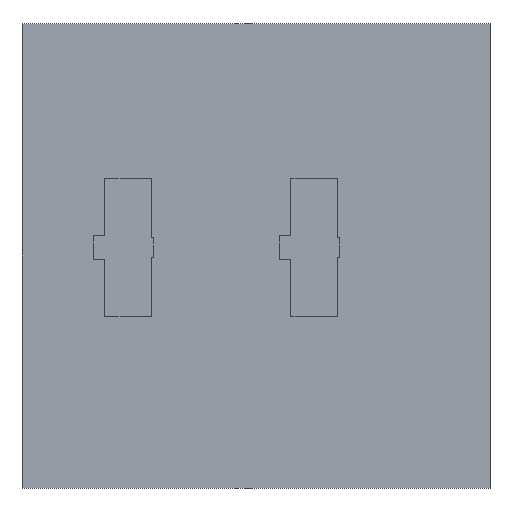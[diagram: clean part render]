
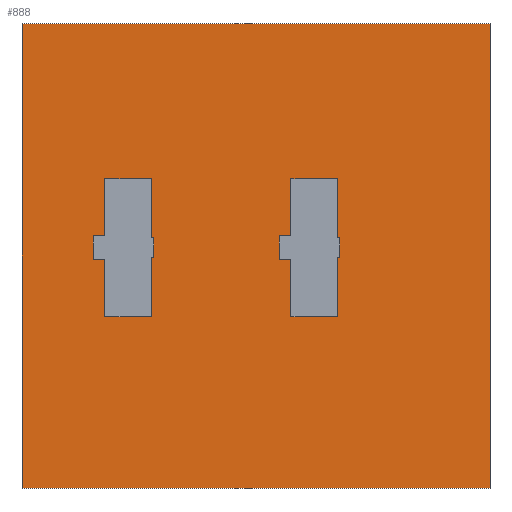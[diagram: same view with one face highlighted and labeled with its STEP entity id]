
A CAD part, front view. The second image highlights one B-rep face of the part: STEP entity #888.
In plain terms, the highlighted planar face has unit normal (0, -1, 0).
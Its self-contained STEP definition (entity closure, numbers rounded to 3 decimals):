
#30=FACE_BOUND('',#129,.T.);
#31=FACE_BOUND('',#130,.T.);
#70=FACE_OUTER_BOUND('',#128,.T.);
#128=EDGE_LOOP('',(#743,#744,#745,#746));
#129=EDGE_LOOP('',(#747,#748,#749,#750,#751,#752,#753,#754,#755,#756,#757,
#758));
#130=EDGE_LOOP('',(#759,#760,#761,#762,#763,#764,#765,#766,#767,#768,#769,
#770));
#145=LINE('',#1234,#249);
#147=LINE('',#1243,#251);
#151=LINE('',#1251,#255);
#154=LINE('',#1257,#258);
#157=LINE('',#1263,#261);
#160=LINE('',#1269,#264);
#163=LINE('',#1275,#267);
#166=LINE('',#1281,#270);
#169=LINE('',#1287,#273);
#172=LINE('',#1293,#276);
#175=LINE('',#1299,#279);
#178=LINE('',#1305,#282);
#181=LINE('',#1310,#285);
#183=LINE('',#1316,#287);
#187=LINE('',#1324,#291);
#190=LINE('',#1330,#294);
#193=LINE('',#1336,#297);
#196=LINE('',#1342,#300);
#199=LINE('',#1348,#303);
#202=LINE('',#1354,#306);
#205=LINE('',#1360,#309);
#208=LINE('',#1366,#312);
#211=LINE('',#1372,#315);
#214=LINE('',#1378,#318);
#217=LINE('',#1383,#321);
#221=LINE('',#1397,#325);
#239=LINE('',#1446,#343);
#240=LINE('',#1447,#344);
#249=VECTOR('',#992,120.);
#251=VECTOR('',#1000,10.);
#255=VECTOR('',#1006,10.);
#258=VECTOR('',#1011,10.);
#261=VECTOR('',#1016,10.);
#264=VECTOR('',#1021,10.);
#267=VECTOR('',#1026,10.);
#270=VECTOR('',#1031,10.);
#273=VECTOR('',#1036,10.);
#276=VECTOR('',#1041,10.);
#279=VECTOR('',#1046,10.);
#282=VECTOR('',#1051,10.);
#285=VECTOR('',#1056,10.);
#287=VECTOR('',#1062,10.);
#291=VECTOR('',#1068,10.);
#294=VECTOR('',#1073,10.);
#297=VECTOR('',#1078,10.);
#300=VECTOR('',#1083,10.);
#303=VECTOR('',#1088,10.);
#306=VECTOR('',#1093,10.);
#309=VECTOR('',#1098,10.);
#312=VECTOR('',#1103,10.);
#315=VECTOR('',#1108,10.);
#318=VECTOR('',#1113,10.);
#321=VECTOR('',#1118,10.);
#325=VECTOR('',#1130,10.);
#343=VECTOR('',#1182,10.);
#344=VECTOR('',#1183,10.);
#371=VERTEX_POINT('',#1231);
#372=VERTEX_POINT('',#1233);
#375=VERTEX_POINT('',#1241);
#376=VERTEX_POINT('',#1242);
#379=VERTEX_POINT('',#1250);
#381=VERTEX_POINT('',#1256);
#383=VERTEX_POINT('',#1262);
#385=VERTEX_POINT('',#1268);
#387=VERTEX_POINT('',#1274);
#389=VERTEX_POINT('',#1280);
#391=VERTEX_POINT('',#1286);
#393=VERTEX_POINT('',#1292);
#395=VERTEX_POINT('',#1298);
#397=VERTEX_POINT('',#1304);
#399=VERTEX_POINT('',#1314);
#400=VERTEX_POINT('',#1315);
#403=VERTEX_POINT('',#1323);
#405=VERTEX_POINT('',#1329);
#407=VERTEX_POINT('',#1335);
#409=VERTEX_POINT('',#1341);
#411=VERTEX_POINT('',#1347);
#413=VERTEX_POINT('',#1353);
#415=VERTEX_POINT('',#1359);
#417=VERTEX_POINT('',#1365);
#419=VERTEX_POINT('',#1371);
#421=VERTEX_POINT('',#1377);
#427=VERTEX_POINT('',#1394);
#428=VERTEX_POINT('',#1396);
#451=EDGE_CURVE('',#371,#372,#145,.T.);
#455=EDGE_CURVE('',#375,#376,#147,.T.);
#459=EDGE_CURVE('',#379,#375,#151,.T.);
#462=EDGE_CURVE('',#381,#379,#154,.T.);
#465=EDGE_CURVE('',#383,#381,#157,.T.);
#468=EDGE_CURVE('',#385,#383,#160,.T.);
#471=EDGE_CURVE('',#387,#385,#163,.T.);
#474=EDGE_CURVE('',#389,#387,#166,.T.);
#477=EDGE_CURVE('',#391,#389,#169,.T.);
#480=EDGE_CURVE('',#393,#391,#172,.T.);
#483=EDGE_CURVE('',#395,#393,#175,.T.);
#486=EDGE_CURVE('',#397,#395,#178,.T.);
#489=EDGE_CURVE('',#376,#397,#181,.T.);
#491=EDGE_CURVE('',#399,#400,#183,.T.);
#495=EDGE_CURVE('',#403,#399,#187,.T.);
#498=EDGE_CURVE('',#405,#403,#190,.T.);
#501=EDGE_CURVE('',#407,#405,#193,.T.);
#504=EDGE_CURVE('',#409,#407,#196,.T.);
#507=EDGE_CURVE('',#411,#409,#199,.T.);
#510=EDGE_CURVE('',#413,#411,#202,.T.);
#513=EDGE_CURVE('',#415,#413,#205,.T.);
#516=EDGE_CURVE('',#417,#415,#208,.T.);
#519=EDGE_CURVE('',#419,#417,#211,.T.);
#522=EDGE_CURVE('',#421,#419,#214,.T.);
#525=EDGE_CURVE('',#400,#421,#217,.T.);
#531=EDGE_CURVE('',#427,#428,#221,.T.);
#555=EDGE_CURVE('',#427,#372,#239,.T.);
#556=EDGE_CURVE('',#371,#428,#240,.T.);
#743=ORIENTED_EDGE('',*,*,#555,.T.);
#744=ORIENTED_EDGE('',*,*,#451,.F.);
#745=ORIENTED_EDGE('',*,*,#556,.T.);
#746=ORIENTED_EDGE('',*,*,#531,.F.);
#747=ORIENTED_EDGE('',*,*,#455,.T.);
#748=ORIENTED_EDGE('',*,*,#489,.T.);
#749=ORIENTED_EDGE('',*,*,#486,.T.);
#750=ORIENTED_EDGE('',*,*,#483,.T.);
#751=ORIENTED_EDGE('',*,*,#480,.T.);
#752=ORIENTED_EDGE('',*,*,#477,.T.);
#753=ORIENTED_EDGE('',*,*,#474,.T.);
#754=ORIENTED_EDGE('',*,*,#471,.T.);
#755=ORIENTED_EDGE('',*,*,#468,.T.);
#756=ORIENTED_EDGE('',*,*,#465,.T.);
#757=ORIENTED_EDGE('',*,*,#462,.T.);
#758=ORIENTED_EDGE('',*,*,#459,.T.);
#759=ORIENTED_EDGE('',*,*,#491,.T.);
#760=ORIENTED_EDGE('',*,*,#525,.T.);
#761=ORIENTED_EDGE('',*,*,#522,.T.);
#762=ORIENTED_EDGE('',*,*,#519,.T.);
#763=ORIENTED_EDGE('',*,*,#516,.T.);
#764=ORIENTED_EDGE('',*,*,#513,.T.);
#765=ORIENTED_EDGE('',*,*,#510,.T.);
#766=ORIENTED_EDGE('',*,*,#507,.T.);
#767=ORIENTED_EDGE('',*,*,#504,.T.);
#768=ORIENTED_EDGE('',*,*,#501,.T.);
#769=ORIENTED_EDGE('',*,*,#498,.T.);
#770=ORIENTED_EDGE('',*,*,#495,.T.);
#843=PLANE('',#965);
#888=ADVANCED_FACE('',(#70,#30,#31),#843,.T.);
#965=AXIS2_PLACEMENT_3D('',#1445,#1180,#1181);
#992=DIRECTION('',(0.,0.,-1.));
#1000=DIRECTION('',(-1.,0.,0.));
#1006=DIRECTION('',(0.,0.,-1.));
#1011=DIRECTION('',(-1.,0.,0.));
#1016=DIRECTION('',(0.,0.,-1.));
#1021=DIRECTION('',(1.,0.,0.));
#1026=DIRECTION('',(0.,0.,-1.));
#1031=DIRECTION('',(1.,0.,0.));
#1036=DIRECTION('',(0.,0.,1.));
#1041=DIRECTION('',(1.,0.,0.));
#1046=DIRECTION('',(0.,0.,1.));
#1051=DIRECTION('',(-1.,0.,0.));
#1056=DIRECTION('',(0.,0.,1.));
#1062=DIRECTION('',(0.,0.,1.));
#1068=DIRECTION('',(-1.,0.,0.));
#1073=DIRECTION('',(0.,0.,1.));
#1078=DIRECTION('',(-1.,0.,0.));
#1083=DIRECTION('',(0.,0.,-1.));
#1088=DIRECTION('',(-1.,0.,0.));
#1093=DIRECTION('',(0.,0.,-1.));
#1098=DIRECTION('',(1.,0.,0.));
#1103=DIRECTION('',(0.,0.,-1.));
#1108=DIRECTION('',(1.,0.,0.));
#1113=DIRECTION('',(0.,0.,1.));
#1118=DIRECTION('',(1.,0.,0.));
#1130=DIRECTION('',(0.,0.,1.));
#1180=DIRECTION('center_axis',(0.,-1.,0.));
#1181=DIRECTION('ref_axis',(0.,0.,-1.));
#1182=DIRECTION('',(1.,0.,0.));
#1183=DIRECTION('',(-1.,0.,0.));
#1231=CARTESIAN_POINT('',(117.,0.,0.));
#1233=CARTESIAN_POINT('',(117.,0.,-120.));
#1234=CARTESIAN_POINT('',(117.,0.,0.));
#1241=CARTESIAN_POINT('',(29.465,0.,-75.701));
#1242=CARTESIAN_POINT('',(17.407,0.,-75.701));
#1243=CARTESIAN_POINT('',(14.733,0.,-75.701));
#1250=CARTESIAN_POINT('',(29.465,0.,-60.403));
#1251=CARTESIAN_POINT('',(29.465,0.,-30.202));
#1256=CARTESIAN_POINT('',(30.025,0.,-60.403));
#1257=CARTESIAN_POINT('',(15.013,0.,-60.403));
#1262=CARTESIAN_POINT('',(30.025,0.,-55.278));
#1263=CARTESIAN_POINT('',(30.025,0.,-27.639));
#1268=CARTESIAN_POINT('',(29.465,0.,-55.278));
#1269=CARTESIAN_POINT('',(14.733,0.,-55.278));
#1274=CARTESIAN_POINT('',(29.465,0.,-39.98));
#1275=CARTESIAN_POINT('',(29.465,0.,-19.99));
#1280=CARTESIAN_POINT('',(17.407,0.,-39.98));
#1281=CARTESIAN_POINT('',(8.704,0.,-39.98));
#1286=CARTESIAN_POINT('',(17.407,0.,-54.778));
#1287=CARTESIAN_POINT('',(17.407,0.,-27.389));
#1292=CARTESIAN_POINT('',(14.407,0.,-54.778));
#1293=CARTESIAN_POINT('',(7.204,0.,-54.778));
#1298=CARTESIAN_POINT('',(14.407,0.,-60.903));
#1299=CARTESIAN_POINT('',(14.407,0.,-30.452));
#1304=CARTESIAN_POINT('',(17.407,0.,-60.903));
#1305=CARTESIAN_POINT('',(8.704,0.,-60.903));
#1310=CARTESIAN_POINT('',(17.407,0.,-37.851));
#1314=CARTESIAN_POINT('',(62.537,0.,-60.903));
#1315=CARTESIAN_POINT('',(62.537,0.,-54.778));
#1316=CARTESIAN_POINT('',(62.537,0.,-30.452));
#1323=CARTESIAN_POINT('',(65.537,0.,-60.903));
#1324=CARTESIAN_POINT('',(32.769,0.,-60.903));
#1329=CARTESIAN_POINT('',(65.537,0.,-75.701));
#1330=CARTESIAN_POINT('',(65.537,0.,-37.851));
#1335=CARTESIAN_POINT('',(77.595,0.,-75.701));
#1336=CARTESIAN_POINT('',(38.798,0.,-75.701));
#1341=CARTESIAN_POINT('',(77.595,0.,-60.403));
#1342=CARTESIAN_POINT('',(77.595,0.,-30.202));
#1347=CARTESIAN_POINT('',(78.155,0.,-60.403));
#1348=CARTESIAN_POINT('',(39.078,0.,-60.403));
#1353=CARTESIAN_POINT('',(78.155,0.,-55.278));
#1354=CARTESIAN_POINT('',(78.155,0.,-27.639));
#1359=CARTESIAN_POINT('',(77.595,0.,-55.278));
#1360=CARTESIAN_POINT('',(38.798,0.,-55.278));
#1365=CARTESIAN_POINT('',(77.595,0.,-39.98));
#1366=CARTESIAN_POINT('',(77.595,0.,-19.99));
#1371=CARTESIAN_POINT('',(65.537,0.,-39.98));
#1372=CARTESIAN_POINT('',(32.769,0.,-39.98));
#1377=CARTESIAN_POINT('',(65.537,0.,-54.778));
#1378=CARTESIAN_POINT('',(65.537,0.,-27.389));
#1383=CARTESIAN_POINT('',(31.269,0.,-54.778));
#1394=CARTESIAN_POINT('',(-4.,0.,-120.));
#1396=CARTESIAN_POINT('',(-4.,0.,0.));
#1397=CARTESIAN_POINT('',(-4.,0.,0.));
#1445=CARTESIAN_POINT('Origin',(0.,0.,0.));
#1446=CARTESIAN_POINT('',(115.,0.,-120.));
#1447=CARTESIAN_POINT('',(0.,0.,0.));
